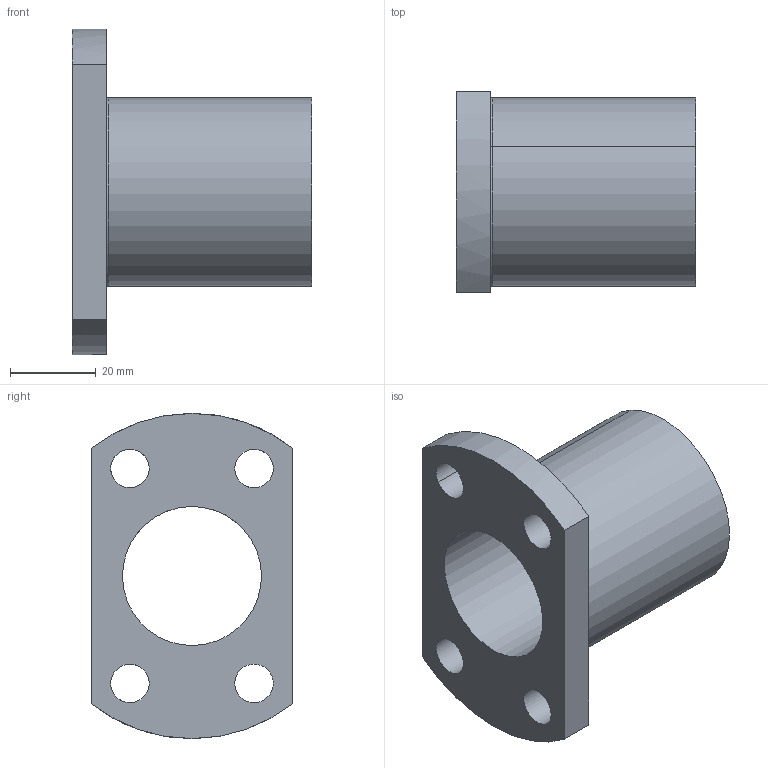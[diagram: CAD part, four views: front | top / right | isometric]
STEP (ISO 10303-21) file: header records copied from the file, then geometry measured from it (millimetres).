
FILE_DESCRIPTION(('CATIA V5 STEP Exchange'),'2;1');
FILE_NAME('C:\Users\aa\Documents\이댈\TM\ATM\ATM32.stp','2020-03-24T08:28:54+00:00',('none'),('none'),'CATIA Version 5 Release 20 SP 7 (IN-10)','CATIA V5 STEP AP203','none');
FILE_SCHEMA(('CONFIG_CONTROL_DESIGN'));
Length unit declared in the file: millimetre
Products named in the file (1): ATM32
Bounding box: 56 x 47 x 76 mm (x, y, z)
Volume: 51133.3 mm3; surface area: 19484.3 mm2
Topology: 1 solids, 1 shells, 21 faces, 52 edges, 34 vertices
Faces by surface type: cylinder 14, plane 5, torus 2
Entity records: 852 total; most frequent: CARTESIAN_POINT 310, ORIENTED_EDGE 104, DIRECTION 83, EDGE_CURVE 52, AXIS2_PLACEMENT_3D 43, VERTEX_POINT 34, EDGE_LOOP 32, ADVANCED_FACE 21
